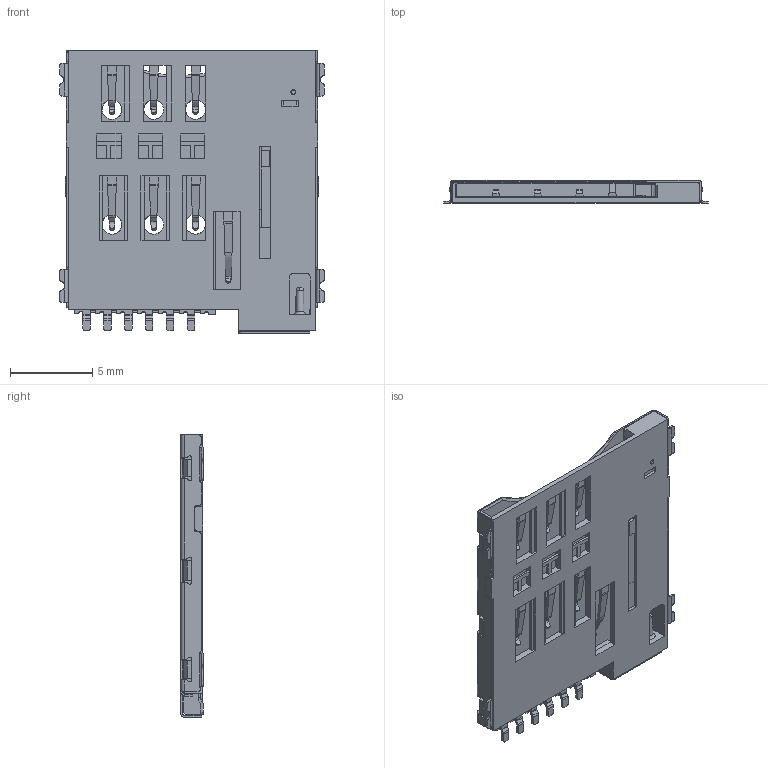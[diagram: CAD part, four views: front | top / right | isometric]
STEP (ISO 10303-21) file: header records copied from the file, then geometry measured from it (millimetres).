
FILE_DESCRIPTION(('CATIA V5 STEP Exchange'),'2;1');
FILE_NAME('F:\REF\特图电子-单阳光\2D\05-Sim Card\SIM CARD套用新图框\3D\MICRO-SIM_1050615AR003.stp','2020-09-05T08:08:51+00:00',('none'),('none'),'CATIA Version 5 Release 17 (IN-10)','CATIA V5 STEP AP203','none');
FILE_SCHEMA(('CONFIG_CONTROL_DESIGN'));
Length unit declared in the file: millimetre
Products named in the file (1): MICRO-SIM_1050615AR003
Bounding box: 16.1 x 1.37 x 17.15 mm (x, y, z)
Volume: 132.2 mm3; surface area: 1158.3 mm2
Topology: 2 solids, 2 shells, 981 faces, 2637 edges, 1656 vertices
Faces by surface type: plane 601, cylinder 311, bspline 50, torus 10, cone 9
Entity records: 34040 total; most frequent: CARTESIAN_POINT 10775, ORIENTED_EDGE 5274, DIRECTION 3951, EDGE_CURVE 2637, VECTOR 1876, LINE 1876, VERTEX_POINT 1656, AXIS2_PLACEMENT_3D 1145
